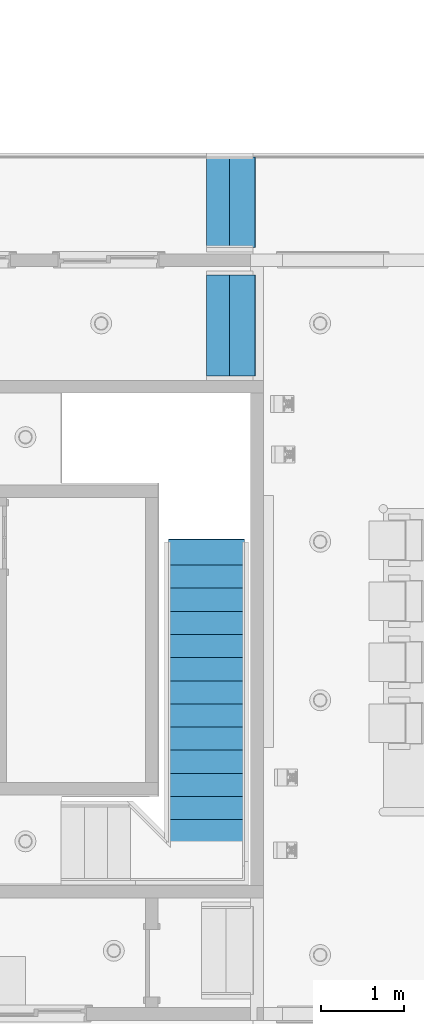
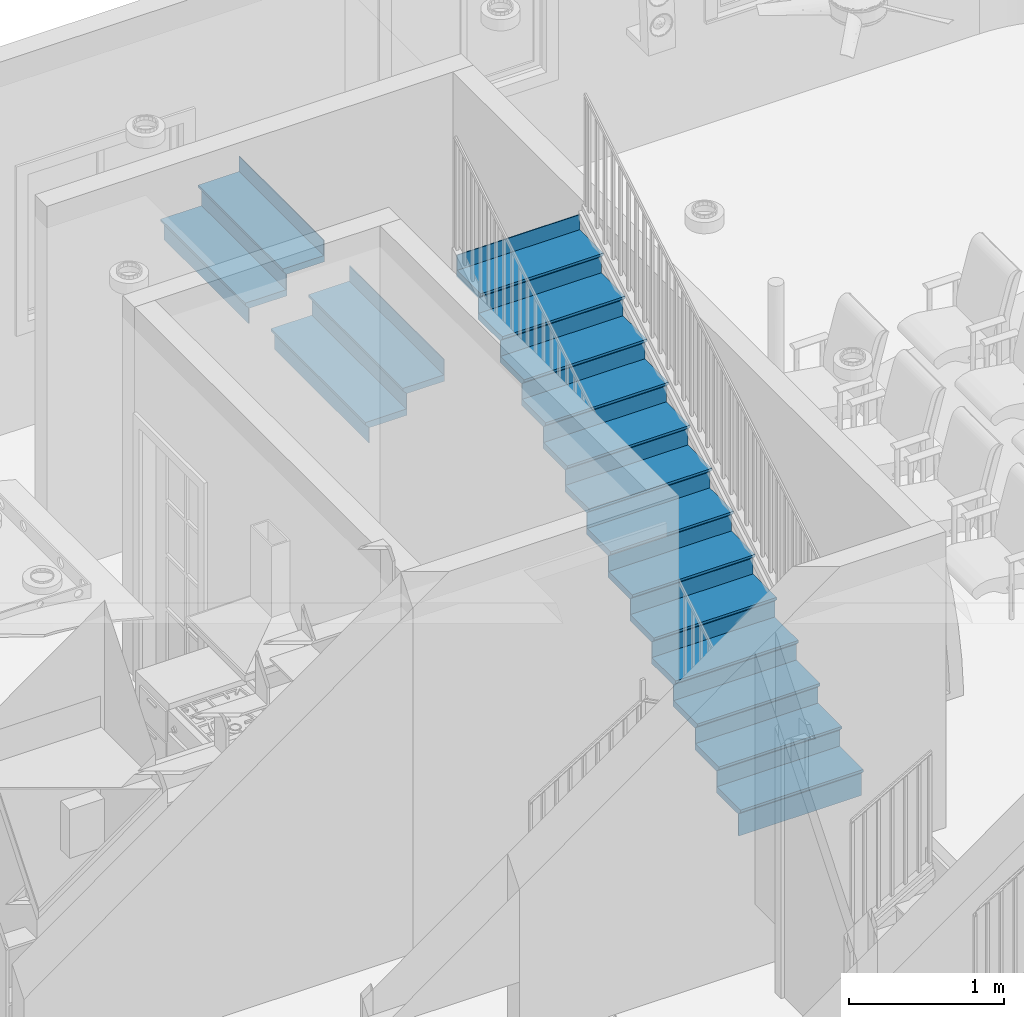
# One storey, part 6 of 21: 3 stair flights, 3 elements without a shape of their own.
"""IFC2X3 building model written with IfcOpenShell, lengths in feet."""

from ifc_helpers import new_model, entity, si_unit, converted_unit, derived_unit, direction, frame, frame_2d, origin, place, context, subcontext, project, spatial, polyline, rectangle, outline, extrude, material, element, aggregate, save


model = new_model("IFC2X3")

# Units and contexts
model_context = context("Model", 3, precision=0.0001, world=origin(), true_north=direction((6.12303176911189e-17, 1.0)))
body_context = subcontext(model_context, "Body", "Model", "MODEL_VIEW")
ifc_project = project(units=[converted_unit("LENGTHUNIT", "FOOT", entity("IfcRatioMeasure", 0.3048), si_unit("LENGTHUNIT", "METRE"), dimensions=[1, 0, 0, 0, 0, 0, 0]), converted_unit("AREAUNIT", "SQUARE FOOT", entity("IfcRatioMeasure", 0.09290304), si_unit("AREAUNIT", "SQUARE_METRE"), dimensions=[2, 0, 0, 0, 0, 0, 0]), converted_unit("VOLUMEUNIT", "CUBIC FOOT", entity("IfcRatioMeasure", 0.028316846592), si_unit("VOLUMEUNIT", "CUBIC_METRE"), dimensions=[3, 0, 0, 0, 0, 0, 0]), converted_unit("PLANEANGLEUNIT", "DEGREE", entity("IfcRatioMeasure", 0.0174532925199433), si_unit("PLANEANGLEUNIT", "RADIAN"), dimensions=[0, 0, 0, 0, 0, 0, 0]), si_unit("MASSUNIT", "GRAM", prefix="KILO"), derived_unit("MASSDENSITYUNIT", [(si_unit("MASSUNIT", "GRAM", prefix="KILO"), 1), (si_unit("LENGTHUNIT", "METRE"), -3)]), si_unit("TIMEUNIT", "SECOND"), si_unit("FREQUENCYUNIT", "HERTZ"), si_unit("THERMODYNAMICTEMPERATUREUNIT", "DEGREE_CELSIUS"), derived_unit("THERMALTRANSMITTANCEUNIT", [(si_unit("MASSUNIT", "GRAM", prefix="KILO"), 1), (si_unit("THERMODYNAMICTEMPERATUREUNIT", "KELVIN"), -1), (si_unit("TIMEUNIT", "SECOND"), -3)]), derived_unit("VOLUMETRICFLOWRATEUNIT", [(si_unit("LENGTHUNIT", "METRE"), 3), (si_unit("TIMEUNIT", "SECOND"), -1)]), si_unit("ELECTRICCURRENTUNIT", "AMPERE"), si_unit("ELECTRICVOLTAGEUNIT", "VOLT"), si_unit("POWERUNIT", "WATT"), si_unit("FORCEUNIT", "NEWTON"), si_unit("ILLUMINANCEUNIT", "LUX"), si_unit("LUMINOUSFLUXUNIT", "LUMEN"), si_unit("LUMINOUSINTENSITYUNIT", "CANDELA"), derived_unit("USERDEFINED", [(si_unit("MASSUNIT", "GRAM", prefix="KILO"), -1), (si_unit("LENGTHUNIT", "METRE"), -2), (si_unit("TIMEUNIT", "SECOND"), 3), (si_unit("LUMINOUSFLUXUNIT", "LUMEN"), 1)]), derived_unit("LINEARVELOCITYUNIT", [(si_unit("LENGTHUNIT", "METRE"), 1), (si_unit("TIMEUNIT", "SECOND"), -1)]), si_unit("PRESSUREUNIT", "PASCAL"), derived_unit("USERDEFINED", [(si_unit("LENGTHUNIT", "METRE"), -2), (si_unit("MASSUNIT", "GRAM", prefix="KILO"), 1), (si_unit("TIMEUNIT", "SECOND"), -2)])], contexts=[model_context])

# Site, building, storey
site_placement = place(None, origin())
site = spatial("IfcSite", under=ifc_project, at=site_placement, Name="表面", CompositionType="ELEMENT")
building_placement = place(site_placement, origin())
building = spatial("IfcBuilding", under=site, at=building_placement, CompositionType="ELEMENT")
storey_placement = place(building_placement, origin())
storey = spatial("IfcBuildingStorey", under=building, at=storey_placement, Name="Level 1", CompositionType="ELEMENT", Elevation=0.0)

# Stair, stair flight
stair_1_placement = place(storey_placement, origin())
stair_1 = element("IfcStair", 1, at=stair_1_placement, inside=storey, Name="楼梯:7\" max riser 11\" tread", ObjectType="楼梯:7\" max riser 11\" tread", ShapeType="NOTDEFINED")
ifc_material = material(Name="Metal - Aluminum")
stair_flight_1_placement = place(stair_1_placement, origin())
stair_flight_1 = element("IfcStairFlight", 2, at=stair_flight_1_placement, material=ifc_material, Name="楼梯:7\" max riser 11\" tread:1", ObjectType="楼梯:7\" max riser 11\" tread", NumberOfRiser=3, NumberOfTreads=2, RiserHeight=0.558823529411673, TreadLength=0.916666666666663, context=body_context, shape_type="SweptSolid", body=[
    extrude(outline(polyline([(-0.0902777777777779, -0.638888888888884), (0.0763888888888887, -0.638888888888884), (0.0763888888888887, 0.277777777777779), (0.0555555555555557, 0.277777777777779), (-0.0277777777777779, 0.361111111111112), (-0.0902777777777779, 0.361111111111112), (-0.0902777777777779, -0.638888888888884)])), frame((14.32619802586, 17.1823936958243, 0.968545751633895), z_axis=(0.0, 1.0, 0.0), x_axis=(0.0, 0.0, -1.0)), (0.0, 0.0, 1.0), 3.58333333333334),
    extrude(rectangle(XDim=3.58333333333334, YDim=0.0208333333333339, at=frame_2d((0.0, 8.88178419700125e-16), x_axis=(1.0, 0.0))), frame((14.9755035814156, 18.974060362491, 0.892156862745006), z_axis=(0.0, 0.0, 1.0), x_axis=(0.0, 1.0, 0.0)), (0.0, 0.0, 1.0), 0.558823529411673),
    extrude(outline(polyline([(-0.0902777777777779, -0.638888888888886), (0.0763888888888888, -0.638888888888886), (0.0763888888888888, 0.277777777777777), (0.0555555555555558, 0.277777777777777), (-0.0277777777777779, 0.361111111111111), (-0.0902777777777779, 0.361111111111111), (-0.0902777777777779, -0.638888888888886)])), frame((15.2428646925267, 17.1823936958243, 1.52736928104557), z_axis=(0.0, 1.0, 0.0), x_axis=(0.0, 0.0, -1.0)), (0.0, 0.0, 1.0), 3.58333333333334),
    extrude(rectangle(XDim=3.58333333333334, YDim=0.0208333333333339, at=frame_2d((0.0, 8.88178419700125e-16), x_axis=(1.0, 0.0))), frame((14.0588369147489, 18.974060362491, 0.5), z_axis=(0.0, 0.0, 1.0), x_axis=(0.0, 1.0, 0.0)), (0.0, 0.0, 1.0), 0.392156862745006),
    extrude(rectangle(XDim=3.58333333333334, YDim=0.0208333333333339, at=frame_2d((0.0, 8.88178419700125e-16), x_axis=(1.0, 0.0))), frame((15.8921702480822, 18.974060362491, 1.45098039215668), z_axis=(0.0, 0.0, 1.0), x_axis=(0.0, 1.0, 0.0)), (0.0, 0.0, 1.0), 0.558823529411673),
])
aggregate(stair_1, [stair_flight_1])

stair_2_placement = place(storey_placement, origin())
stair_2 = element("IfcStair", 3, at=stair_2_placement, inside=storey, Name="楼梯:7\" max riser 11\" tread", ObjectType="楼梯:7\" max riser 11\" tread", ShapeType="NOTDEFINED")
stair_flight_2_placement = place(stair_2_placement, origin())
stair_flight_2 = element("IfcStairFlight", 4, at=stair_flight_2_placement, material=ifc_material, Name="楼梯:7\" max riser 11\" tread:1", ObjectType="楼梯:7\" max riser 11\" tread", NumberOfRiser=3, NumberOfTreads=2, RiserHeight=0.558823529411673, TreadLength=0.916666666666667, context=body_context, shape_type="SweptSolid", body=[
    extrude(outline(polyline([(-0.0902777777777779, -0.638888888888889), (0.0763888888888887, -0.638888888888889), (0.0763888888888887, 0.277777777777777), (0.0555555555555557, 0.277777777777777), (-0.0277777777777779, 0.361111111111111), (-0.0902777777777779, 0.361111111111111), (-0.0902777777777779, -0.638888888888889)])), frame((14.32619802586, 12.0990603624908, 0.968545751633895), z_axis=(0.0, 1.0, 0.0), x_axis=(0.0, 0.0, -1.0)), (0.0, 0.0, 1.0), 4.0),
    extrude(rectangle(XDim=4.0, YDim=0.0208333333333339, at=frame_2d((0.0, 8.88178419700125e-16), x_axis=(1.0, 0.0))), frame((14.9755035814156, 14.0990603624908, 0.892156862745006), z_axis=(0.0, 0.0, 1.0), x_axis=(0.0, 1.0, 0.0)), (0.0, 0.0, 1.0), 0.558823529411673),
    extrude(outline(polyline([(-0.0902777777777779, -0.638888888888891), (0.0763888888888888, -0.638888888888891), (0.0763888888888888, 0.277777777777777), (0.0555555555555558, 0.277777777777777), (-0.0277777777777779, 0.361111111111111), (-0.0902777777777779, 0.361111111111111), (-0.0902777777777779, -0.638888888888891)])), frame((15.2428646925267, 12.0990603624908, 1.52736928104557), z_axis=(0.0, 1.0, 0.0), x_axis=(0.0, 0.0, -1.0)), (0.0, 0.0, 1.0), 4.0),
    extrude(rectangle(XDim=4.0, YDim=0.0208333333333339, at=frame_2d((0.0, -8.88178419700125e-16), x_axis=(1.0, 0.0))), frame((14.0588369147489, 14.0990603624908, 0.5), z_axis=(0.0, 0.0, 1.0), x_axis=(0.0, 1.0, 0.0)), (0.0, 0.0, 1.0), 0.392156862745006),
    extrude(rectangle(XDim=4.0, YDim=0.0208333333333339, at=frame_2d((0.0, 8.88178419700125e-16), x_axis=(1.0, 0.0))), frame((15.8921702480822, 14.0990603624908, 1.45098039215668), z_axis=(0.0, 0.0, 1.0), x_axis=(0.0, 1.0, 0.0)), (0.0, 0.0, 1.0), 0.558823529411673),
])
aggregate(stair_2, [stair_flight_2])

stair_3_placement = place(storey_placement, origin())
stair_3 = element("IfcStair", 5, at=stair_3_placement, inside=storey, Name="楼梯:7\" max riser 11\" tread", ObjectType="楼梯:7\" max riser 11\" tread", ShapeType="NOTDEFINED")
stair_flight_3_placement = place(stair_3_placement, origin())
stair_flight_3 = element("IfcStairFlight", 6, at=stair_flight_3_placement, material=ifc_material, Name="楼梯:7\" max riser 11\" tread:2", ObjectType="楼梯:7\" max riser 11\" tread", NumberOfRiser=14, NumberOfTreads=13, RiserHeight=0.555555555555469, TreadLength=0.916666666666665, context=body_context, shape_type="SweptSolid", body=[
    extrude(rectangle(XDim=2.99999999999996, YDim=0.020833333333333, at=frame_2d((-8.88178419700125e-16, -4.44089209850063e-16), x_axis=(1.0, 0.0))), frame((13.9650869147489, -6.28479944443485, 2.05555555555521), z_axis=(0.0, 0.0, 1.0), x_axis=(-1.0, 0.0, 0.0)), (0.0, 0.0, 1.0), 0.555555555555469),
    extrude(outline(polyline([(-0.0902777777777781, -0.361111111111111), (-0.0277777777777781, -0.361111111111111), (0.0555555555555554, -0.277777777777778), (0.0763888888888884, -0.277777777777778), (0.0763888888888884, 0.638888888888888), (-0.0902777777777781, 0.638888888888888), (-0.0902777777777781, -0.361111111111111)])), frame((12.4650869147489, -6.01743833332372, 2.68749999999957), z_axis=(1.0, 0.0, 0.0), x_axis=(0.0, 0.0, -1.0)), (0.0, 0.0, 1.0), 2.99999999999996),
    extrude(rectangle(XDim=2.99999999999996, YDim=0.020833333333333, at=frame_2d((-8.88178419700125e-16, -4.44089209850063e-16), x_axis=(1.0, 0.0))), frame((13.9650869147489, -5.36813277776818, 2.61111111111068), z_axis=(0.0, 0.0, 1.0), x_axis=(-1.0, 0.0, 0.0)), (0.0, 0.0, 1.0), 0.555555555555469),
    extrude(outline(polyline([(-0.0902777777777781, -0.361111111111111), (-0.0277777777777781, -0.361111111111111), (0.0555555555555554, -0.277777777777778), (0.0763888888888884, -0.277777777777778), (0.0763888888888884, 0.638888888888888), (-0.0902777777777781, 0.638888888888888), (-0.0902777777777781, -0.361111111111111)])), frame((12.4650869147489, -5.10077166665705, 3.24305555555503), z_axis=(1.0, 0.0, 0.0), x_axis=(0.0, 0.0, -1.0)), (0.0, 0.0, 1.0), 2.99999999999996),
    extrude(rectangle(XDim=2.99999999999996, YDim=0.020833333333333, at=frame_2d((8.88178419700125e-16, -4.44089209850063e-16), x_axis=(1.0, 0.0))), frame((13.9650869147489, -4.45146611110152, 3.16666666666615), z_axis=(0.0, 0.0, 1.0), x_axis=(-1.0, 0.0, 0.0)), (0.0, 0.0, 1.0), 0.555555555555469),
    extrude(outline(polyline([(-0.0902777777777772, -0.361111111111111), (-0.0277777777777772, -0.361111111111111), (0.0555555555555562, -0.277777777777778), (0.0763888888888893, -0.277777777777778), (0.0763888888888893, 0.638888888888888), (-0.0902777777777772, 0.638888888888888), (-0.0902777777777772, -0.361111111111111)])), frame((12.4650869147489, -4.18410499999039, 3.7986111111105), z_axis=(1.0, 0.0, 0.0), x_axis=(0.0, 0.0, -1.0)), (0.0, 0.0, 1.0), 2.99999999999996),
    extrude(rectangle(XDim=2.99999999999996, YDim=0.020833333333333, at=frame_2d((-8.88178419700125e-16, -4.44089209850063e-16), x_axis=(1.0, 0.0))), frame((13.9650869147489, -3.53479944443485, 3.72222222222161), z_axis=(0.0, 0.0, 1.0), x_axis=(-1.0, 0.0, 0.0)), (0.0, 0.0, 1.0), 0.555555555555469),
    extrude(outline(polyline([(-0.0902777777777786, -0.361111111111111), (-0.0277777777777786, -0.361111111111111), (0.0555555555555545, -0.277777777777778), (0.0763888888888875, -0.277777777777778), (0.0763888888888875, 0.638888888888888), (-0.0902777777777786, 0.638888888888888), (-0.0902777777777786, -0.361111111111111)])), frame((12.4650869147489, -3.26743833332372, 4.35416666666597), z_axis=(1.0, 0.0, 0.0), x_axis=(0.0, 0.0, -1.0)), (0.0, 0.0, 1.0), 2.99999999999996),
    extrude(rectangle(XDim=2.99999999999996, YDim=0.020833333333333, at=frame_2d((-8.88178419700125e-16, 0.0), x_axis=(1.0, 0.0))), frame((13.9650869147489, -2.61813277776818, 4.27777777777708), z_axis=(0.0, 0.0, 1.0), x_axis=(-1.0, 0.0, 0.0)), (0.0, 0.0, 1.0), 0.555555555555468),
    extrude(outline(polyline([(-0.0902777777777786, -0.361111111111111), (-0.0277777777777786, -0.361111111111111), (0.0555555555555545, -0.277777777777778), (0.0763888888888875, -0.277777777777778), (0.0763888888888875, 0.638888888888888), (-0.0902777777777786, 0.638888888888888), (-0.0902777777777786, -0.361111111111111)])), frame((12.4650869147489, -2.35077166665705, 4.90972222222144), z_axis=(1.0, 0.0, 0.0), x_axis=(0.0, 0.0, -1.0)), (0.0, 0.0, 1.0), 2.99999999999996),
    extrude(rectangle(XDim=2.99999999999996, YDim=0.020833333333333, at=frame_2d((8.88178419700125e-16, 0.0), x_axis=(1.0, 0.0))), frame((13.9650869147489, -1.70146611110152, 4.83333333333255), z_axis=(0.0, 0.0, 1.0), x_axis=(-1.0, 0.0, 0.0)), (0.0, 0.0, 1.0), 0.555555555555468),
    extrude(outline(polyline([(-0.0902777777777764, -0.361111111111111), (-0.0277777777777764, -0.361111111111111), (0.0555555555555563, -0.277777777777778), (0.0763888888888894, -0.277777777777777), (0.076388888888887, 0.638888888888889), (-0.09027777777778, 0.638888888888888), (-0.0902777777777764, -0.361111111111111)])), frame((12.465086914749, -1.43410499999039, 5.46527777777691), z_axis=(1.0, 0.0, 0.0), x_axis=(0.0, 0.0, -1.0)), (0.0, 0.0, 1.0), 2.99999999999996),
    extrude(rectangle(XDim=2.99999999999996, YDim=0.020833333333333, at=frame_2d((-8.88178419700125e-16, 0.0), x_axis=(1.0, 0.0))), frame((13.9650869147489, -0.784799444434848, 5.38888888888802), z_axis=(0.0, 0.0, 1.0), x_axis=(-1.0, 0.0, 0.0)), (0.0, 0.0, 1.0), 0.555555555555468),
    extrude(outline(polyline([(-0.090277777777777, -0.361111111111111), (-0.027777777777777, -0.361111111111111), (0.0555555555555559, -0.277777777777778), (0.0763888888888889, -0.277777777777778), (0.0763888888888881, 0.638888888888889), (-0.0902777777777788, 0.638888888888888), (-0.090277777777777, -0.361111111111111)])), frame((12.465086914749, -0.517438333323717, 6.02083333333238), z_axis=(1.0, 0.0, 0.0), x_axis=(0.0, 0.0, -1.0)), (0.0, 0.0, 1.0), 2.99999999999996),
    extrude(rectangle(XDim=2.99999999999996, YDim=0.020833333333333, at=frame_2d((-8.88178419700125e-16, 0.0), x_axis=(1.0, 0.0))), frame((13.965086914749, 0.131867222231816, 5.94444444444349), z_axis=(0.0, 0.0, 1.0), x_axis=(-1.0, 0.0, 0.0)), (0.0, 0.0, 1.0), 0.555555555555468),
    extrude(outline(polyline([(-0.0902777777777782, -0.361111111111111), (-0.0277777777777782, -0.361111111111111), (0.0555555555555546, -0.277777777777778), (0.0763888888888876, -0.277777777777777), (0.0763888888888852, 0.638888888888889), (-0.0902777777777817, 0.638888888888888), (-0.0902777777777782, -0.361111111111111)])), frame((12.465086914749, 0.399228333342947, 6.57638888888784), z_axis=(1.0, 0.0, 0.0), x_axis=(0.0, 0.0, -1.0)), (0.0, 0.0, 1.0), 2.99999999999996),
    extrude(rectangle(XDim=2.99999999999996, YDim=0.020833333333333, at=frame_2d((-8.88178419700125e-16, 0.0), x_axis=(1.0, 0.0))), frame((13.965086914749, 1.04853388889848, 6.49999999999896), z_axis=(0.0, 0.0, 1.0), x_axis=(-1.0, 0.0, 0.0)), (0.0, 0.0, 1.0), 0.555555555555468),
    extrude(outline(polyline([(-0.0902777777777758, -0.361111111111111), (-0.0277777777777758, -0.361111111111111), (0.0555555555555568, -0.277777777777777), (0.0763888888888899, -0.277777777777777), (0.076388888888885, 0.638888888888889), (-0.0902777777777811, 0.638888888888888), (-0.0902777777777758, -0.361111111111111)])), frame((12.465086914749, 1.31589500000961, 7.13194444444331), z_axis=(1.0, 0.0, 0.0), x_axis=(0.0, 0.0, -1.0)), (0.0, 0.0, 1.0), 2.99999999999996),
    extrude(rectangle(XDim=2.99999999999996, YDim=0.020833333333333, at=frame_2d((8.88178419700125e-16, 0.0), x_axis=(1.0, 0.0))), frame((13.965086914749, 1.96520055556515, 7.05555555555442), z_axis=(0.0, 0.0, 1.0), x_axis=(-1.0, 0.0, 0.0)), (0.0, 0.0, 1.0), 0.555555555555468),
    extrude(outline(polyline([(-0.0902777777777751, -0.361111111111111), (-0.0277777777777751, -0.361111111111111), (0.0555555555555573, -0.277777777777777), (0.0763888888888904, -0.277777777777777), (0.0763888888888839, 0.638888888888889), (-0.0902777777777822, 0.638888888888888), (-0.0902777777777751, -0.361111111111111)])), frame((12.465086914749, 2.23256166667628, 7.68749999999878), z_axis=(1.0, 0.0, 0.0), x_axis=(0.0, 0.0, -1.0)), (0.0, 0.0, 1.0), 2.99999999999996),
    extrude(rectangle(XDim=2.99999999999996, YDim=0.020833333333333, at=frame_2d((-8.88178419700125e-16, 0.0), x_axis=(1.0, 0.0))), frame((13.965086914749, 2.88186722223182, 7.61111111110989), z_axis=(0.0, 0.0, 1.0), x_axis=(-1.0, 0.0, 0.0)), (0.0, 0.0, 1.0), 0.555555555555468),
    extrude(outline(polyline([(-0.0902777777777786, -0.361111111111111), (-0.0277777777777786, -0.361111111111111), (0.0555555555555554, -0.277777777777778), (0.0763888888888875, -0.277777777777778), (0.0763888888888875, 0.638888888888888), (-0.0902777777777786, 0.638888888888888), (-0.0902777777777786, -0.361111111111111)])), frame((12.465086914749, 3.14922833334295, 8.24305555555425), z_axis=(1.0, 0.0, 0.0), x_axis=(0.0, 0.0, -1.0)), (0.0, 0.0, 1.0), 2.99999999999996),
    extrude(rectangle(XDim=2.99999999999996, YDim=0.020833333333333, at=frame_2d((-8.88178419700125e-16, 0.0), x_axis=(1.0, 0.0))), frame((13.965086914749, 3.79853388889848, 8.16666666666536), z_axis=(0.0, 0.0, 1.0), x_axis=(-1.0, 0.0, 0.0)), (0.0, 0.0, 1.0), 0.555555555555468),
    extrude(outline(polyline([(-0.0902777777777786, -0.36111111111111), (-0.0277777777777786, -0.36111111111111), (0.0555555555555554, -0.277777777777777), (0.0763888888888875, -0.277777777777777), (0.0763888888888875, 0.638888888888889), (-0.0902777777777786, 0.638888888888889), (-0.0902777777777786, -0.36111111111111)])), frame((12.465086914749, 4.06589500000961, 8.79861111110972), z_axis=(1.0, 0.0, 0.0), x_axis=(0.0, 0.0, -1.0)), (0.0, 0.0, 1.0), 2.99999999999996),
    extrude(rectangle(XDim=2.99999999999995, YDim=0.020833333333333, at=frame_2d((-1.77635683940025e-15, 4.44089209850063e-16), x_axis=(1.0, 0.0))), frame((13.965086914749, 5.63186722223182, 9.2777777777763), z_axis=(0.0, 0.0, 1.0), x_axis=(-1.0, 0.0, 0.0)), (0.0, 0.0, 1.0), 0.555555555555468),
    extrude(rectangle(XDim=2.99999999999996, YDim=0.020833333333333, at=frame_2d((-8.88178419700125e-16, -4.44089209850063e-16), x_axis=(1.0, 0.0))), frame((13.965086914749, 4.71520055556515, 8.72222222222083), z_axis=(0.0, 0.0, 1.0), x_axis=(-1.0, 0.0, 0.0)), (0.0, 0.0, 1.0), 0.555555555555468),
    extrude(outline(polyline([(-0.0902777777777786, -0.361111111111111), (-0.0277777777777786, -0.361111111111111), (0.0555555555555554, -0.277777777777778), (0.0763888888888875, -0.277777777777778), (0.0763888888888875, 0.638888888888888), (-0.0902777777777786, 0.638888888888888), (-0.0902777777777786, -0.361111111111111)])), frame((12.465086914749, 4.98256166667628, 9.35416666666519), z_axis=(1.0, 0.0, 0.0), x_axis=(0.0, 0.0, -1.0)), (0.0, 0.0, 1.0), 2.99999999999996),
])
aggregate(stair_3, [stair_flight_3])

save(model, "model.ifc")
